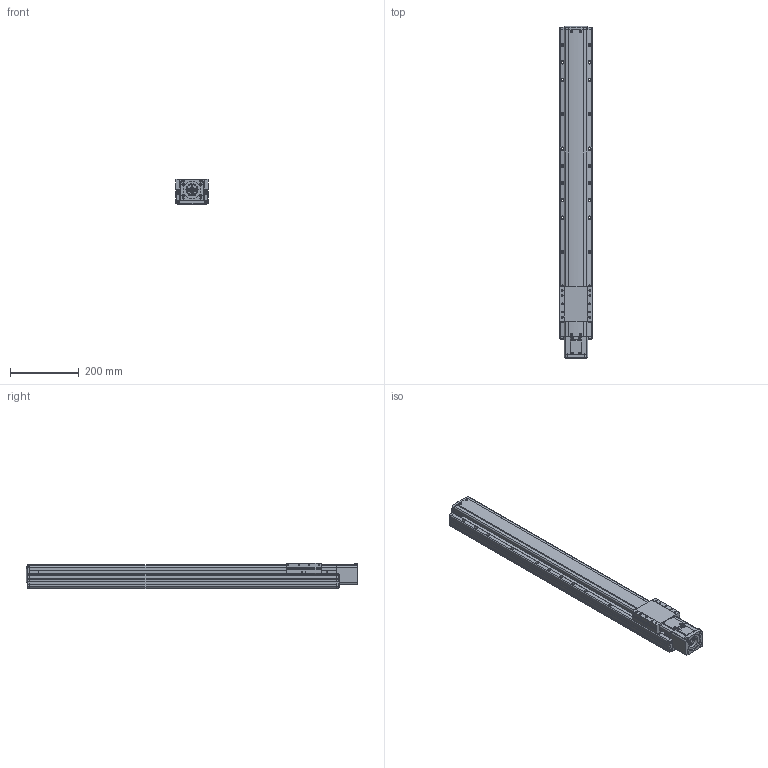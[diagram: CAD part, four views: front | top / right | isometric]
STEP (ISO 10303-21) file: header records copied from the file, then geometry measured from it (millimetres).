
FILE_DESCRIPTION(('STEP AP214'),'1');
FILE_NAME('Z:/Web/3D/PSA95/STP/PSA95-700 (3D)/PSA95ㅁㅁ-700S.stp','2014-07-03T00:37:03',(' '),(' '),'Spatial InterOp 3D',' ',' ');
FILE_SCHEMA(('automotive_design'));
Length unit declared in the file: millimetre
Products named in the file (35): BASE; RRCV; 스크루 : Round - M4.0 x 10.0; 너트 : Square - M10.0 x 220.7419; RR1500; FRCV-090; 스크루 : Round - M4.0 x 6.0; SLBL-PA90; SSFX-SAN65; CPLCV-SAN65; 스크루 : Round - M3.0 x 6.0; MTHZ-PA70/90-S60A-3; 스크루 : Socket - M4.0 x 20.0; NONE
Bounding box: 95 x 962.5 x 74 mm (x, y, z)
Volume: 5036176.3 mm3; surface area: 543875.3 mm2
Topology: 35 solids, 69 shells, 3123 faces, 8024 edges, 5048 vertices
Faces by surface type: plane 1466, cylinder 1022, cone 399, torus 158, sphere 46, bspline 32
Entity records: 123232 total; most frequent: CARTESIAN_POINT 20395, DIRECTION 16780, ORIENTED_EDGE 15728, EDGE_CURVE 7864, AXIS2_PLACEMENT_3D 6035, VERTEX_POINT 5048, LINE 4710, VECTOR 4710
